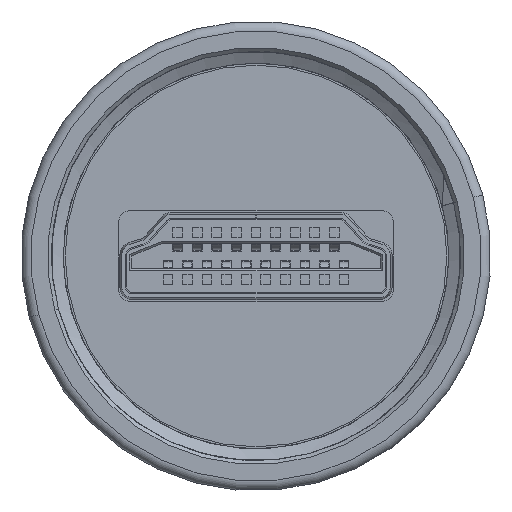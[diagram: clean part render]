
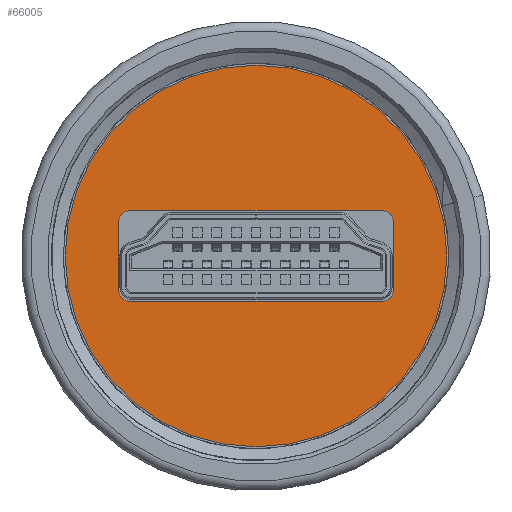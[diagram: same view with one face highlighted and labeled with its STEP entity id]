
A CAD part, front view. The second image highlights one B-rep face of the part: STEP entity #66005.
In plain terms, the highlighted planar face has unit normal (0, -1, 0) as drawn and (0, 0, -1) by its records, which use the part's own axes.
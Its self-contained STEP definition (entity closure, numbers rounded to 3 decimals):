
#2211 = CIRCLE ( 'NONE', #68017, 9.75 ) ;
#2227 = CIRCLE ( 'NONE', #68024, 0.5 ) ;
#2229 = CIRCLE ( 'NONE', #68023, 9.75 ) ;
#2230 = LINE ( 'NONE', #35971, #2232 ) ;
#2232 = VECTOR ( 'NONE', #35972, 1000. ) ;
#2233 = LINE ( 'NONE', #35980, #2235 ) ;
#2234 = CIRCLE ( 'NONE', #68025, 0.5 ) ;
#2235 = VECTOR ( 'NONE', #35976, 1000. ) ;
#2236 = LINE ( 'NONE', #35981, #2238 ) ;
#2237 = CIRCLE ( 'NONE', #68026, 0.5 ) ;
#2238 = VECTOR ( 'NONE', #35982, 1000. ) ;
#2239 = LINE ( 'NONE', #35986, #2241 ) ;
#2240 = CIRCLE ( 'NONE', #68027, 0.5 ) ;
#2241 = VECTOR ( 'NONE', #35987, 1000. ) ;
#2834 = FACE_OUTER_BOUND ( 'NONE', #3835, .T. ) ;
#2837 = FACE_BOUND ( 'NONE', #3845, .T. ) ;
#3835 = EDGE_LOOP ( 'NONE', ( #6207, #6208 ) ) ;
#3845 = EDGE_LOOP ( 'NONE', ( #6209, #6210, #6211, #6212, #6213, #6214, #6215, #6216 ) ) ;
#4662 = VERTEX_POINT ( 'NONE', #32021 ) ;
#4663 = VERTEX_POINT ( 'NONE', #32022 ) ;
#4669 = VERTEX_POINT ( 'NONE', #32028 ) ;
#4672 = VERTEX_POINT ( 'NONE', #32031 ) ;
#4674 = VERTEX_POINT ( 'NONE', #32033 ) ;
#4675 = VERTEX_POINT ( 'NONE', #32034 ) ;
#4676 = VERTEX_POINT ( 'NONE', #32035 ) ;
#4677 = VERTEX_POINT ( 'NONE', #32036 ) ;
#4678 = VERTEX_POINT ( 'NONE', #32037 ) ;
#4679 = VERTEX_POINT ( 'NONE', #32038 ) ;
#6207 = ORIENTED_EDGE ( 'NONE', *, *, #60014, .F. ) ;
#6208 = ORIENTED_EDGE ( 'NONE', *, *, #60003, .F. ) ;
#6209 = ORIENTED_EDGE ( 'NONE', *, *, #60015, .T. ) ;
#6210 = ORIENTED_EDGE ( 'NONE', *, *, #60016, .T. ) ;
#6211 = ORIENTED_EDGE ( 'NONE', *, *, #60017, .T. ) ;
#6212 = ORIENTED_EDGE ( 'NONE', *, *, #60018, .T. ) ;
#6213 = ORIENTED_EDGE ( 'NONE', *, *, #60019, .T. ) ;
#6214 = ORIENTED_EDGE ( 'NONE', *, *, #60020, .T. ) ;
#6215 = ORIENTED_EDGE ( 'NONE', *, *, #60021, .T. ) ;
#6216 = ORIENTED_EDGE ( 'NONE', *, *, #60022, .T. ) ;
#32021 = CARTESIAN_POINT ( 'NONE',  ( 9.75, 0., 0. ) ) ;
#32022 = CARTESIAN_POINT ( 'NONE',  ( -9.75, 0., 0. ) ) ;
#32028 = CARTESIAN_POINT ( 'NONE',  ( 6.5, 2.3, 0. ) ) ;
#32031 = CARTESIAN_POINT ( 'NONE',  ( -6.5, 2.3, 0. ) ) ;
#32033 = CARTESIAN_POINT ( 'NONE',  ( -7., 1.8, 0. ) ) ;
#32034 = CARTESIAN_POINT ( 'NONE',  ( -7., -1.8, 0. ) ) ;
#32035 = CARTESIAN_POINT ( 'NONE',  ( -6.5, -2.3, 0. ) ) ;
#32036 = CARTESIAN_POINT ( 'NONE',  ( 6.5, -2.3, 0. ) ) ;
#32037 = CARTESIAN_POINT ( 'NONE',  ( 7., -1.8, 0. ) ) ;
#32038 = CARTESIAN_POINT ( 'NONE',  ( 7., 1.8, 0. ) ) ;
#35949 = CARTESIAN_POINT ( 'NONE',  ( 0., 0., 0. ) ) ;
#35950 = DIRECTION ( 'NONE',  ( 0., 0., 1. ) ) ;
#35951 = DIRECTION ( 'NONE',  ( 1., 0., 0. ) ) ;
#35971 = CARTESIAN_POINT ( 'NONE',  ( -7., 2.3, 0. ) ) ;
#35972 = DIRECTION ( 'NONE',  ( -1., 0., 0. ) ) ;
#35976 = DIRECTION ( 'NONE',  ( 0., -1., 0. ) ) ;
#35977 = CARTESIAN_POINT ( 'NONE',  ( 0., 0., 0. ) ) ;
#35978 = DIRECTION ( 'NONE',  ( 0., 0., 1. ) ) ;
#35979 = DIRECTION ( 'NONE',  ( 1., 0., 0. ) ) ;
#35980 = CARTESIAN_POINT ( 'NONE',  ( -7., 2.3, 0. ) ) ;
#35981 = CARTESIAN_POINT ( 'NONE',  ( -7., -2.3, 0. ) ) ;
#35982 = DIRECTION ( 'NONE',  ( 1., 0., 0. ) ) ;
#35983 = CARTESIAN_POINT ( 'NONE',  ( -6.5, 1.8, 0. ) ) ;
#35984 = DIRECTION ( 'NONE',  ( 0., 0., 1. ) ) ;
#35985 = DIRECTION ( 'NONE',  ( 1., 0., 0. ) ) ;
#35986 = CARTESIAN_POINT ( 'NONE',  ( 7., 2.3, 0. ) ) ;
#35987 = DIRECTION ( 'NONE',  ( 0., 1., 0. ) ) ;
#35988 = CARTESIAN_POINT ( 'NONE',  ( -6.5, -1.8, 0. ) ) ;
#35989 = DIRECTION ( 'NONE',  ( 0., 0., 1. ) ) ;
#35990 = DIRECTION ( 'NONE',  ( 1., 0., 0. ) ) ;
#35993 = CARTESIAN_POINT ( 'NONE',  ( 6.5, -1.8, 0. ) ) ;
#35994 = DIRECTION ( 'NONE',  ( 0., 0., 1. ) ) ;
#35995 = DIRECTION ( 'NONE',  ( 1., 0., 0. ) ) ;
#35996 = CARTESIAN_POINT ( 'NONE',  ( 6.5, 1.8, 0. ) ) ;
#35997 = DIRECTION ( 'NONE',  ( 0., 0., 1. ) ) ;
#35998 = DIRECTION ( 'NONE',  ( 1., 0., 0. ) ) ;
#38025 = CARTESIAN_POINT ( 'NONE',  ( 0., 0., 0. ) ) ;
#38037 = PLANE ( 'NONE',  #68377 ) ;
#38040 = DIRECTION ( 'NONE',  ( 0., 0., 1. ) ) ;
#38042 = DIRECTION ( 'NONE',  ( 1., 0., 0. ) ) ;
#60003 = EDGE_CURVE ( 'NONE', #4662, #4663, #2211, .T. ) ;
#60014 = EDGE_CURVE ( 'NONE', #4663, #4662, #2229, .T. ) ;
#60015 = EDGE_CURVE ( 'NONE', #4669, #4672, #2230, .T. ) ;
#60016 = EDGE_CURVE ( 'NONE', #4672, #4674, #2227, .T. ) ;
#60017 = EDGE_CURVE ( 'NONE', #4674, #4675, #2233, .T. ) ;
#60018 = EDGE_CURVE ( 'NONE', #4675, #4676, #2234, .T. ) ;
#60019 = EDGE_CURVE ( 'NONE', #4676, #4677, #2236, .T. ) ;
#60020 = EDGE_CURVE ( 'NONE', #4677, #4678, #2237, .T. ) ;
#60021 = EDGE_CURVE ( 'NONE', #4678, #4679, #2239, .T. ) ;
#60022 = EDGE_CURVE ( 'NONE', #4679, #4669, #2240, .T. ) ;
#66005 = ADVANCED_FACE ( 'NONE', ( #2834, #2837 ), #38037, .F. ) ;
#68017 = AXIS2_PLACEMENT_3D ( 'NONE', #35949, #35950, #35951 ) ;
#68023 = AXIS2_PLACEMENT_3D ( 'NONE', #35977, #35978, #35979 ) ;
#68024 = AXIS2_PLACEMENT_3D ( 'NONE', #35983, #35984, #35985 ) ;
#68025 = AXIS2_PLACEMENT_3D ( 'NONE', #35988, #35989, #35990 ) ;
#68026 = AXIS2_PLACEMENT_3D ( 'NONE', #35993, #35994, #35995 ) ;
#68027 = AXIS2_PLACEMENT_3D ( 'NONE', #35996, #35997, #35998 ) ;
#68377 = AXIS2_PLACEMENT_3D ( 'NONE', #38025, #38040, #38042 ) ;
